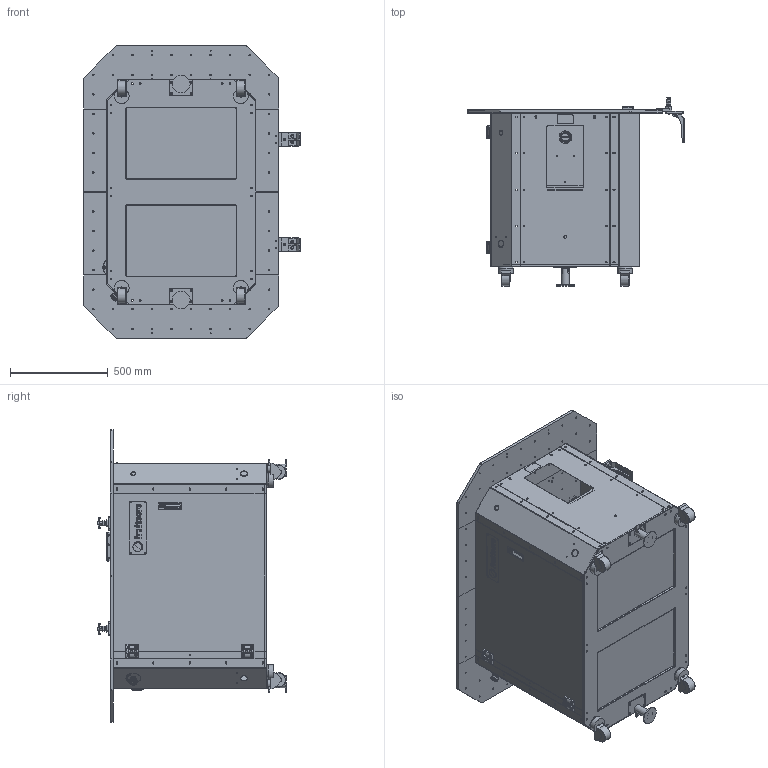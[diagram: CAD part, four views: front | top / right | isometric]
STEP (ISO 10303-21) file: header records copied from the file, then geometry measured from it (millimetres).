
FILE_DESCRIPTION (( 'STEP AP214' ), '1' );
FILE_NAME ('MRB_L_2021_06.STEP', '2021-05-27T07:17:11', ( '' ), ( '' ), 'SwSTEP 2.0', 'SolidWorks 2017', '' );
FILE_SCHEMA (( 'AUTOMOTIVE_DESIGN' ));
Length unit declared in the file: millimetre
Products named in the file (1): MRB_L_2021_06
Bounding box: 1108.2 x 963.12 x 1496 mm (x, y, z)
Surface area: 11339799.4 mm2 (no closed solid volume)
Topology: 0 solids, 112 shells, 4251 faces, 11764 edges, 7638 vertices
Faces by surface type: plane 2106, cylinder 1501, bspline 393, cone 197, torus 51, sphere 3
Full cylindrical faces by diameter (mm): 4.2 x6, 5 x21, 5.05 x8, 5.5 x16, 5.8 x4, 6 x4, 6.4 x10, 6.6 x12, 6.8 x148, 7 x8, 8.5 x12, 8.8 x8, 9 x61, 10 x18, 11 x8, 12 x2, 13.4 x1, 14 x4, 16 x4, 18.5 x2, 20.4 x1, 22 x2, 23.3 x1, 25 x1, 28 x1, 28.4 x1, 30 x1, 35 x3, 38 x1, 40 x3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
Entity records: 191261 total; most frequent: CARTESIAN_POINT 39318, ORIENTED_EDGE 21269, DIRECTION 20272, EDGE_CURVE 11122, VERTEX_POINT 7569, AXIS2_PLACEMENT_3D 6773, VECTOR 6726, LINE 6726
